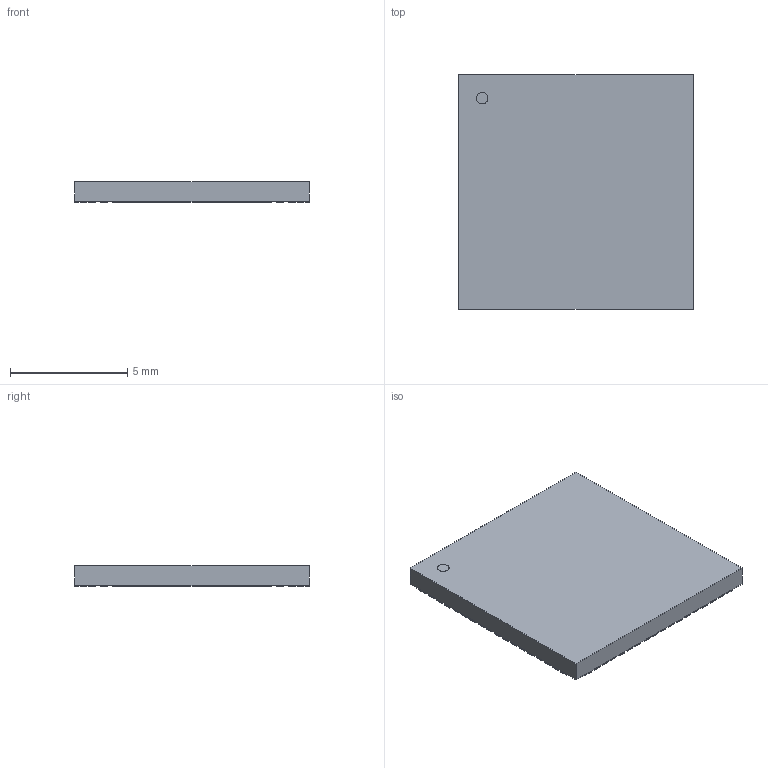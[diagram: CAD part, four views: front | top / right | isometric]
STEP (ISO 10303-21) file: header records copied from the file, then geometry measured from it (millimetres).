
FILE_DESCRIPTION(('STEP AP214'),'1');
FILE_NAME('QFN72_OPT1_LAT','2024-09-23T05:33:55',(''),(''),'','','');
FILE_SCHEMA(('AUTOMOTIVE_DESIGN'));
Length unit declared in the file: millimetre
Products named in the file (1): product
Bounding box: 10.01 x 10.01 x 0.89 mm (x, y, z)
Volume: 86.6 mm3; surface area: 344.4 mm2
Topology: 75 solids, 75 shells, 447 faces, 891 edges, 594 vertices
Faces by surface type: plane 446, cylinder 1
Full cylindrical faces by diameter (mm): 0.5 x1
Entity records: 10885 total; most frequent: DIRECTION 1790, ORIENTED_EDGE 1780, CARTESIAN_POINT 1045, EDGE_CURVE 890, LINE 888, VECTOR 888, VERTEX_POINT 594, AXIS2_PLACEMENT_3D 451
